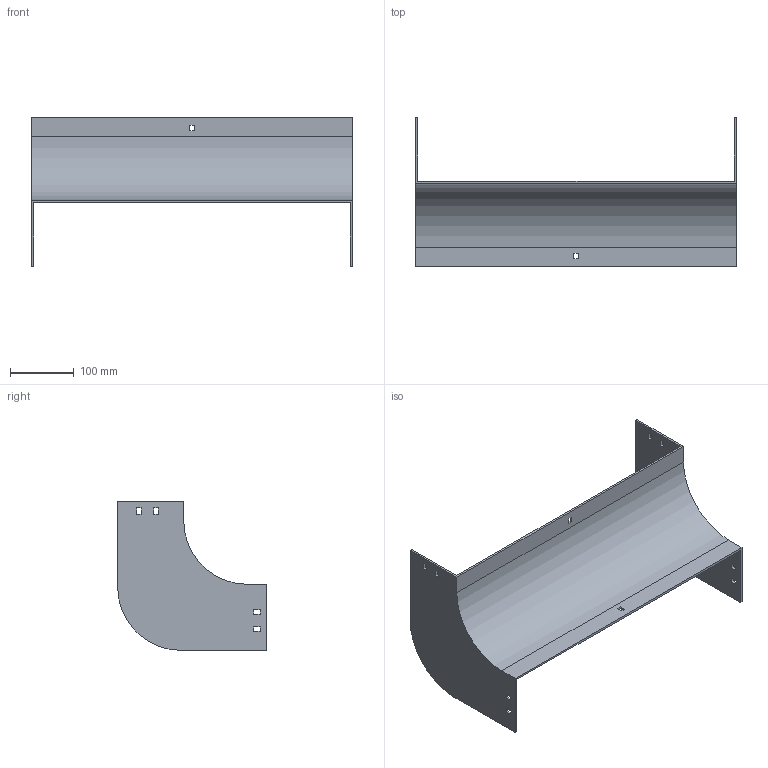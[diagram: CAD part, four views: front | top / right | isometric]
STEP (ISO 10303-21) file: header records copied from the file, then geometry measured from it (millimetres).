
FILE_DESCRIPTION (( 'STEP AP214' ), '1' );
FILE_NAME ('33F1D500.step', '2025-02-21T12:52:01', ( '' ), ( '' ), 'SwSTEP 2.0', 'SolidWorks 2023', '' );
FILE_SCHEMA (( 'AUTOMOTIVE_DESIGN' ));
Length unit declared in the file: millimetre
Products named in the file (1): 33F1D500
Bounding box: 504 x 234 x 234 mm (x, y, z)
Volume: 645014.2 mm3; surface area: 377639.9 mm2
Topology: 1 solids, 1 shells, 58 faces, 168 edges, 112 vertices
Faces by surface type: plane 54, cylinder 4
Entity records: 1943 total; most frequent: CARTESIAN_POINT 339, ORIENTED_EDGE 336, DIRECTION 294, EDGE_CURVE 168, LINE 160, VECTOR 160, VERTEX_POINT 112, EDGE_LOOP 78
